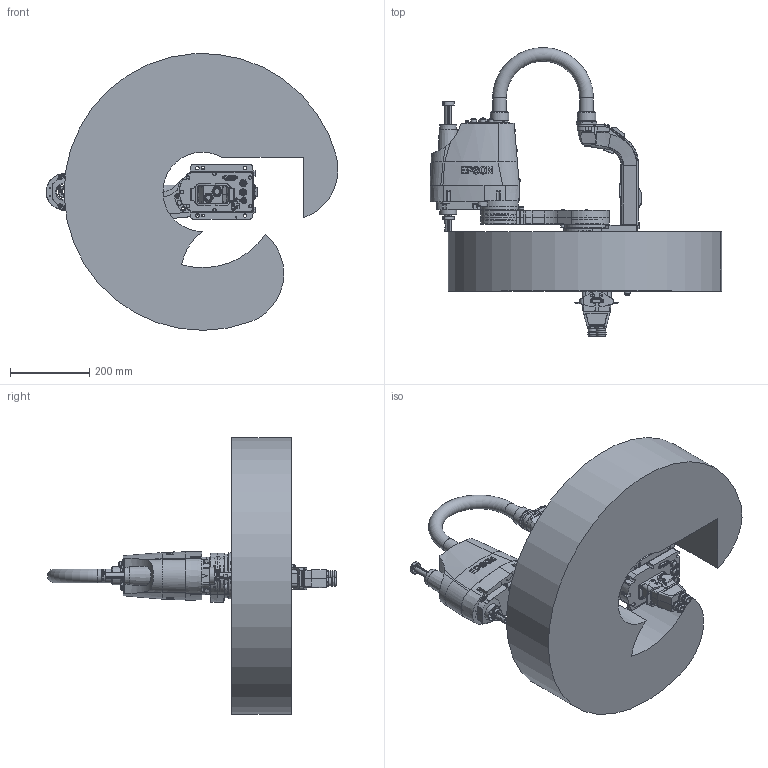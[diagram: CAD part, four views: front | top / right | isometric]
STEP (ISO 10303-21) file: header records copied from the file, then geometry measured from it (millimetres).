
FILE_DESCRIPTION( ( 'STEP AP214' ), '1' );
FILE_NAME( 'C:/Users/9607552/Desktop/GX4-A/GX4-A351SB-R-SW.stp', '2023-04-07T04:54:16', ( '' ), ( '' ), ' ', 'PARTsolutions', ' ' );
FILE_SCHEMA( ( 'AUTOMOTIVE_DESIGN { 1 0 10303 214 1 1 1 1 }' ) );
Length unit declared in the file: millimetre
Products named in the file (8): GX4-A351SB-R-SW; _A251SBbasesb; _A351S-R_J1_ARM; _A251S-a; _A351S_CONDUIT; _A251S; _Straight; _GX4-33_WS
Assembly tree (7 placements, depth 2):
  GX4-A351SB-R-SW
    _A251SBbasesb
    _A351S-R_J1_ARM
    _A251S-a
    _A351S_CONDUIT
    _A251S
    _Straight
    _GX4-33_WS
Bounding box: 737.83 x 730.09 x 699.31 mm (x, y, z)
Volume: 51404540.3 mm3; surface area: 1807614.2 mm2
Topology: 7 solids, 7 shells, 3961 faces, 9767 edges, 6364 vertices
Faces by surface type: plane 2312, cylinder 1138, cone 333, torus 91, bspline 86, sphere 1
Full cylindrical faces by diameter (mm): 1 x30, 1.13 x55, 1.18 x55, 2.459 x4, 2.5 x17, 3 x36, 3.2 x4, 3.242 x1, 3.3 x44, 3.4 x32, 3.5 x12, 4 x2, 4.5 x24, 4.8 x4, 4.917 x2, 5 x1, 5.34 x8, 5.4 x14, 5.5 x26, 5.6 x2, 5.68 x4, 5.9 x4, 5.999 x8, 6 x9, 6.7 x4, 6.8 x7, 6.98 x4, 7 x37, 7.1 x4, 7.8 x4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
Entity records: 149665 total; most frequent: CARTESIAN_POINT 28728, ORIENTED_EDGE 17734, DIRECTION 17684, EDGE_CURVE 8867, AXIS2_PLACEMENT_3D 6694, VERTEX_POINT 6274, EDGE_LOOP 5373, FACE_OUTER_BOUND 4592
